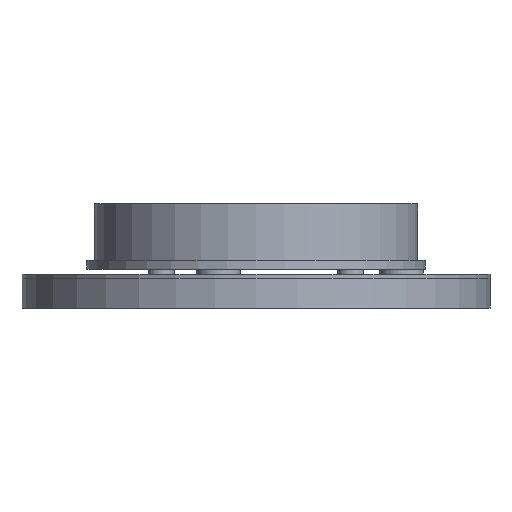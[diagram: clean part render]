
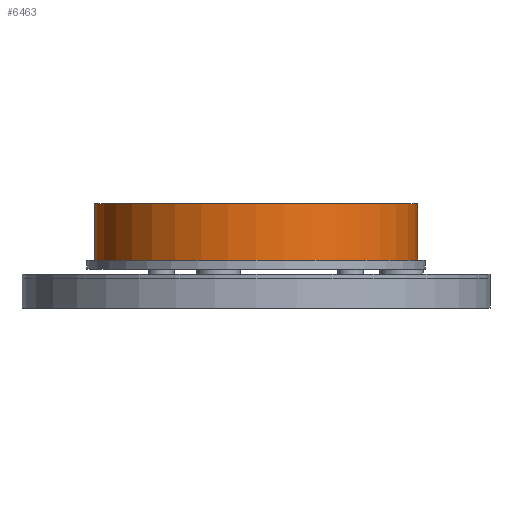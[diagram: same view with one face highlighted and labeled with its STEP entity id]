
A CAD part, front view. The second image highlights one B-rep face of the part: STEP entity #6463.
In plain terms, the highlighted cylindrical face has radius 20.025 mm (diameter 40.05 mm), a full revolution.
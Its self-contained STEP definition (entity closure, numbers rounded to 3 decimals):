
#5637 = PLANE('',#5638);
#5638 = AXIS2_PLACEMENT_3D('',#5639,#5640,#5641);
#5639 = CARTESIAN_POINT('',(0.,0.,13.1));
#5640 = DIRECTION('',(0.,0.,1.));
#5641 = DIRECTION('',(1.,0.,-0.));
#6228 = EDGE_CURVE('',#6229,#6229,#6231,.T.);
#6229 = VERTEX_POINT('',#6230);
#6230 = CARTESIAN_POINT('',(20.025,0.,13.1));
#6231 = SURFACE_CURVE('',#6232,(#6237,#6244),.PCURVE_S1.);
#6232 = CIRCLE('',#6233,20.025);
#6233 = AXIS2_PLACEMENT_3D('',#6234,#6235,#6236);
#6234 = CARTESIAN_POINT('',(0.,0.,13.1));
#6235 = DIRECTION('',(0.,0.,1.));
#6236 = DIRECTION('',(1.,0.,-0.));
#6237 = PCURVE('',#5637,#6238);
#6238 = DEFINITIONAL_REPRESENTATION('',(#6239),#6243);
#6239 = CIRCLE('',#6240,20.025);
#6240 = AXIS2_PLACEMENT_2D('',#6241,#6242);
#6241 = CARTESIAN_POINT('',(0.,0.));
#6242 = DIRECTION('',(1.,0.));
#6243 = ( GEOMETRIC_REPRESENTATION_CONTEXT(2) 
PARAMETRIC_REPRESENTATION_CONTEXT() REPRESENTATION_CONTEXT('2D SPACE',''
  ) );
#6244 = PCURVE('',#6245,#6250);
#6245 = CYLINDRICAL_SURFACE('',#6246,20.025);
#6246 = AXIS2_PLACEMENT_3D('',#6247,#6248,#6249);
#6247 = CARTESIAN_POINT('',(0.,0.,5.));
#6248 = DIRECTION('',(-0.,-0.,-1.));
#6249 = DIRECTION('',(1.,0.,0.));
#6250 = DEFINITIONAL_REPRESENTATION('',(#6251),#6255);
#6251 = LINE('',#6252,#6253);
#6252 = CARTESIAN_POINT('',(6.283,-8.1));
#6253 = VECTOR('',#6254,1.);
#6254 = DIRECTION('',(-1.,0.));
#6255 = ( GEOMETRIC_REPRESENTATION_CONTEXT(2) 
PARAMETRIC_REPRESENTATION_CONTEXT() REPRESENTATION_CONTEXT('2D SPACE',''
  ) );
#6302 = PLANE('',#6303);
#6303 = AXIS2_PLACEMENT_3D('',#6304,#6305,#6306);
#6304 = CARTESIAN_POINT('',(0.,0.,6.1)
  );
#6305 = DIRECTION('',(0.,0.,1.));
#6306 = DIRECTION('',(1.,0.,-0.));
#6463 = ADVANCED_FACE('',(#6464),#6245,.T.);
#6464 = FACE_BOUND('',#6465,.T.);
#6465 = EDGE_LOOP('',(#6466,#6489,#6490,#6491));
#6466 = ORIENTED_EDGE('',*,*,#6467,.T.);
#6467 = EDGE_CURVE('',#6468,#6229,#6470,.T.);
#6468 = VERTEX_POINT('',#6469);
#6469 = CARTESIAN_POINT('',(20.025,0.,6.1));
#6470 = SEAM_CURVE('',#6471,(#6475,#6482),.PCURVE_S1.);
#6471 = LINE('',#6472,#6473);
#6472 = CARTESIAN_POINT('',(20.025,0.,5.));
#6473 = VECTOR('',#6474,1.);
#6474 = DIRECTION('',(0.,0.,1.));
#6475 = PCURVE('',#6245,#6476);
#6476 = DEFINITIONAL_REPRESENTATION('',(#6477),#6481);
#6477 = LINE('',#6478,#6479);
#6478 = CARTESIAN_POINT('',(0.,0.));
#6479 = VECTOR('',#6480,1.);
#6480 = DIRECTION('',(-0.,-1.));
#6481 = ( GEOMETRIC_REPRESENTATION_CONTEXT(2) 
PARAMETRIC_REPRESENTATION_CONTEXT() REPRESENTATION_CONTEXT('2D SPACE',''
  ) );
#6482 = PCURVE('',#6245,#6483);
#6483 = DEFINITIONAL_REPRESENTATION('',(#6484),#6488);
#6484 = LINE('',#6485,#6486);
#6485 = CARTESIAN_POINT('',(6.283,0.));
#6486 = VECTOR('',#6487,1.);
#6487 = DIRECTION('',(-0.,-1.));
#6488 = ( GEOMETRIC_REPRESENTATION_CONTEXT(2) 
PARAMETRIC_REPRESENTATION_CONTEXT() REPRESENTATION_CONTEXT('2D SPACE',''
  ) );
#6489 = ORIENTED_EDGE('',*,*,#6228,.F.);
#6490 = ORIENTED_EDGE('',*,*,#6467,.F.);
#6491 = ORIENTED_EDGE('',*,*,#6492,.F.);
#6492 = EDGE_CURVE('',#6468,#6468,#6493,.T.);
#6493 = SURFACE_CURVE('',#6494,(#6499,#6506),.PCURVE_S1.);
#6494 = CIRCLE('',#6495,20.025);
#6495 = AXIS2_PLACEMENT_3D('',#6496,#6497,#6498);
#6496 = CARTESIAN_POINT('',(0.,0.,6.1));
#6497 = DIRECTION('',(0.,0.,-1.));
#6498 = DIRECTION('',(1.,0.,0.));
#6499 = PCURVE('',#6245,#6500);
#6500 = DEFINITIONAL_REPRESENTATION('',(#6501),#6505);
#6501 = LINE('',#6502,#6503);
#6502 = CARTESIAN_POINT('',(0.,-1.1));
#6503 = VECTOR('',#6504,1.);
#6504 = DIRECTION('',(1.,-0.));
#6505 = ( GEOMETRIC_REPRESENTATION_CONTEXT(2) 
PARAMETRIC_REPRESENTATION_CONTEXT() REPRESENTATION_CONTEXT('2D SPACE',''
  ) );
#6506 = PCURVE('',#6302,#6507);
#6507 = DEFINITIONAL_REPRESENTATION('',(#6508),#6516);
#6508 = ( BOUNDED_CURVE() B_SPLINE_CURVE(2,(#6509,#6510,#6511,#6512,
#6513,#6514,#6515),.UNSPECIFIED.,.T.,.F.) B_SPLINE_CURVE_WITH_KNOTS((1,2
    ,2,2,2,1),(-2.094,0.,2.094,4.189,
6.283,8.378),.UNSPECIFIED.) CURVE() 
GEOMETRIC_REPRESENTATION_ITEM() RATIONAL_B_SPLINE_CURVE((1.,0.5,1.,0.5,
1.,0.5,1.)) REPRESENTATION_ITEM('') );
#6509 = CARTESIAN_POINT('',(20.025,0.));
#6510 = CARTESIAN_POINT('',(20.025,-34.684));
#6511 = CARTESIAN_POINT('',(-10.013,-17.342));
#6512 = CARTESIAN_POINT('',(-40.05,0.));
#6513 = CARTESIAN_POINT('',(-10.013,17.342));
#6514 = CARTESIAN_POINT('',(20.025,34.684));
#6515 = CARTESIAN_POINT('',(20.025,0.));
#6516 = ( GEOMETRIC_REPRESENTATION_CONTEXT(2) 
PARAMETRIC_REPRESENTATION_CONTEXT() REPRESENTATION_CONTEXT('2D SPACE',''
  ) );
